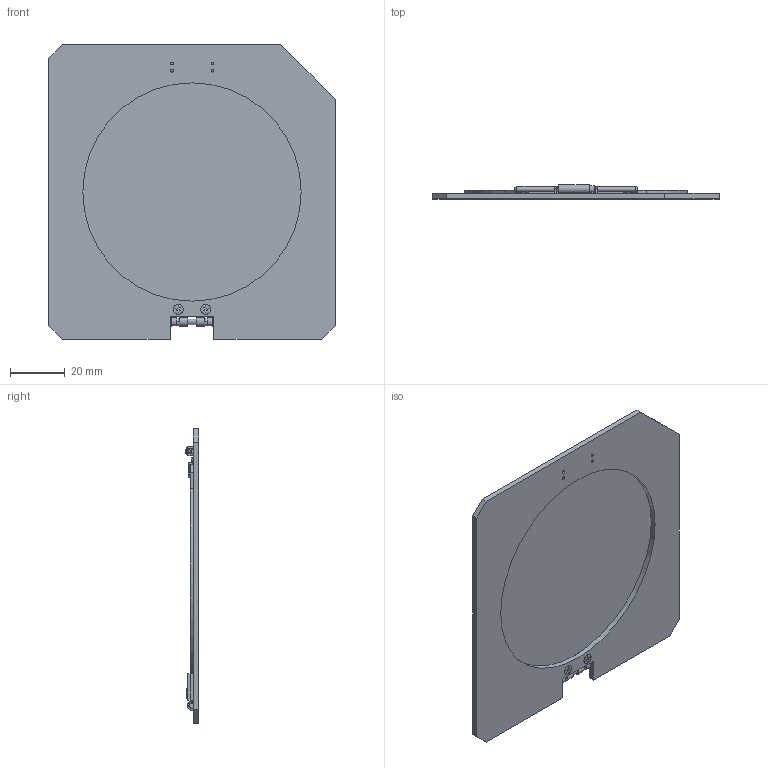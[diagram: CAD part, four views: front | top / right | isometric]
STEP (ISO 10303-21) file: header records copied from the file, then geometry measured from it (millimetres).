
FILE_DESCRIPTION (( 'STEP AP214' ), '1' );
FILE_NAME ('EXA STARSPEC Shutter Deployed.STEP', '2024-11-20T21:12:43', ( '' ), ( '' ), 'SwSTEP 2.0', 'SolidWorks 2023', '' );
FILE_SCHEMA (( 'AUTOMOTIVE_DESIGN' ));
Length unit declared in the file: millimetre
Products named in the file (14): M2 Torx Screw; EXA STARSPEC Shutter Deployed; Shutter Holder Plates; Axis; Shutter Base; Hinge v6 Base SM 0,57mm; Muscule Simplified - DSA Assembly; Hinge v6 2 Base SM 0.57mm; Hinge Nano; NMD_Bent; Shutter Lid; Muscule Clip Assembly - DSA Assembly
Assembly tree (18 placements, depth 3):
  EXA STARSPEC Shutter Deployed
    Shutter Base
    Shutter Lid
    NMD_Bent
      Muscule Simplified - DSA Assembly
      Muscule Clip Assembly - DSA Assembly  x2
    Shutter Holder Plates  x2
    Hinge Nano
      Axis
      Hinge v6 Base SM 0,57mm
      Hinge v6 2 Base SM 0.57mm
    M2 Torx Screw  x4
    M2 Torx Screw
    M2 Torx Screw
Bounding box: 105 x 5.02 x 108 mm (x, y, z)
Volume: 19045 mm3; surface area: 27171.1 mm2
Topology: 21 solids, 21 shells, 521 faces, 1298 edges, 840 vertices
Faces by surface type: plane 261, sphere 88, cylinder 78, bspline 61, cone 33
Full cylindrical faces by diameter (mm): 1.031 x4, 2 x3, 2.2 x2, 2.25 x4, 2.51 x1, 3.02 x1, 3.65 x10, 80 x1
Entity records: 22320 total; most frequent: CARTESIAN_POINT 12628, ORIENTED_EDGE 1964, DIRECTION 1734, EDGE_CURVE 982, AXIS2_PLACEMENT_3D 665, VERTEX_POINT 655, EDGE_LOOP 519, FACE_OUTER_BOUND 446
